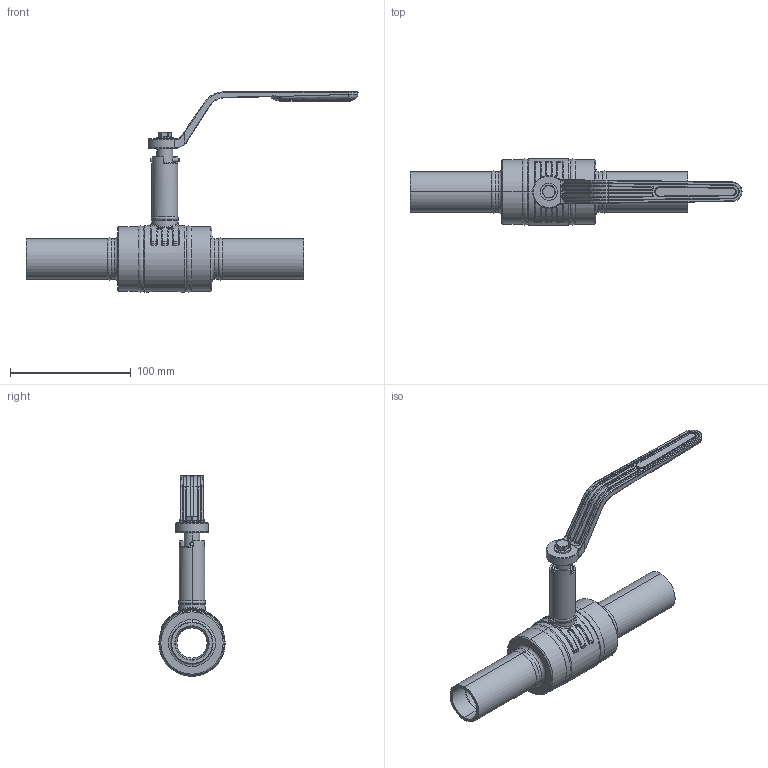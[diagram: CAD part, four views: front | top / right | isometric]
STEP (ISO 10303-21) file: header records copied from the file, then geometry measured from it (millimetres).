
FILE_DESCRIPTION((''),'2;1');
FILE_NAME('KHMO-S-V-H-025P040-VI_SW0001','2022-10-19T08:23:35',('jeitlers'),('KLINGER'),'CREO PARAMETRIC BY PTC INC, 2020184','CREO PARAMETRIC BY PTC INC, 2020184','');
FILE_SCHEMA(('AUTOMOTIVE_DESIGN { 1 0 10303 214 1 1 1 1 }'));
Products named in the file (1): KHMO-S-V-H-025P040-VI_SW0001
Bounding box: 275 x 55 x 166 mm (x, y, z)
Volume: 209289.1 mm3; surface area: 91294.8 mm2
Topology: 1 solids, 1 shells, 695 faces, 1554 edges, 882 vertices
Faces by surface type: cylinder 225, bspline 142, plane 116, torus 109, cone 90, sphere 8, extrusion 5
Entity records: 38648 total; most frequent: CARTESIAN_POINT 22973, ORIENTED_EDGE 3104, DIRECTION 3057, EDGE_CURVE 1552, AXIS2_PLACEMENT_3D 1283, VERTEX_POINT 882, EDGE_LOOP 734, CIRCLE 722
